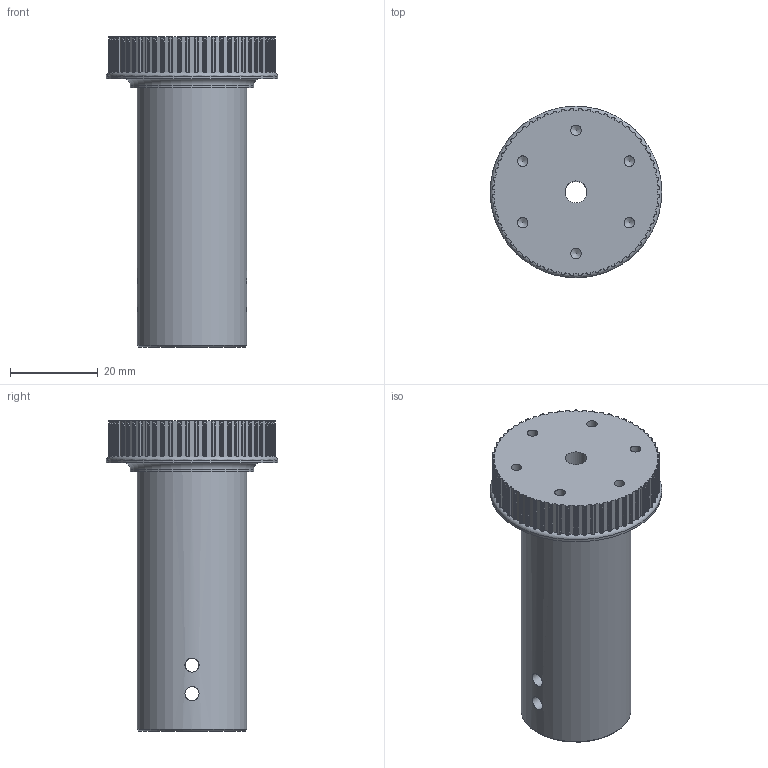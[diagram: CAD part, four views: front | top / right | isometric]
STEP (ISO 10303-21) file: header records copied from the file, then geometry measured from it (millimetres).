
FILE_DESCRIPTION(/* description */ (''),/* implementation_level */ '2;1');
FILE_NAME(/* name */ 'gt2-60.stp',/* time_stamp */ '2025-06-05T08:09:12+02:00',/* author */ ('R5800u'),/* organization */ (''),/* preprocessor_version */ 'ST-DEVELOPER v20',/* originating_system */ 'Autodesk Inventor 2025',/* authorisation */ '');
FILE_SCHEMA (('AUTOMOTIVE_DESIGN { 1 0 10303 214 3 1 1 }'));
Length unit declared in the file: millimetre
Products named in the file (1): gt2-60
Bounding box: 39 x 39 x 70.5 mm (x, y, z)
Volume: 38927.2 mm3; surface area: 10167.4 mm2
Topology: 1 solids, 1 shells, 447 faces, 1334 edges, 887 vertices
Faces by surface type: cylinder 374, plane 64, cone 7, torus 2
Full cylindrical faces by diameter (mm): 2.4 x6, 3.2 x4, 5 x1, 25 x1, 28 x1, 39 x1
Entity records: 17302 total; most frequent: CARTESIAN_POINT 5065, ORIENTED_EDGE 2656, DIRECTION 2655, EDGE_CURVE 1328, AXIS2_PLACEMENT_3D 1135, VERTEX_POINT 887, CIRCLE 687, EDGE_LOOP 461
